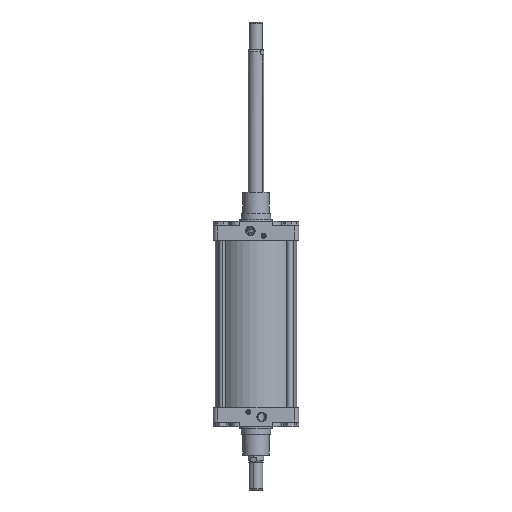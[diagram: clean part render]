
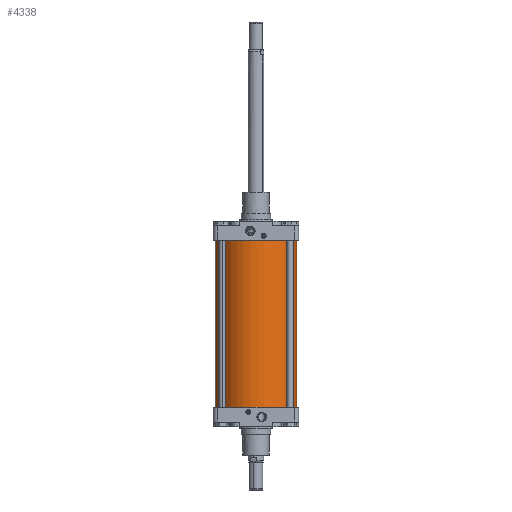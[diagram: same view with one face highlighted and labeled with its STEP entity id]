
A CAD part, front view. The second image highlights one B-rep face of the part: STEP entity #4338.
In plain terms, the highlighted cylindrical face has radius 105 mm (diameter 210 mm), a partial arc.
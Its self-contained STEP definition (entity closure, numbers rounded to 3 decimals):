
#1374 = DIRECTION ( 'NONE',  ( -1., 0., 0. ) ) ;
#1460 = DIRECTION ( 'NONE',  ( 0., 0., -1. ) ) ;
#1548 = CARTESIAN_POINT ( 'NONE',  ( 0., 0., 430. ) ) ;
#2163 = FACE_OUTER_BOUND ( 'NONE', #52716, .T. ) ;
#3009 = CYLINDRICAL_SURFACE ( 'NONE', #68998, 105. ) ;
#4338 = ADVANCED_FACE ( 'NONE', ( #2163 ), #3009, .T. ) ;
#10733 = ORIENTED_EDGE ( 'NONE', *, *, #17106, .T. ) ;
#11371 = VERTEX_POINT ( 'NONE', #69695 ) ;
#12435 = CIRCLE ( 'NONE', #52704, 105. ) ;
#12578 = LINE ( 'NONE', #39831, #12712 ) ;
#12712 = VECTOR ( 'NONE', #39420, 1000. ) ;
#17106 = EDGE_CURVE ( 'NONE', #30858, #68951, #32824, .T. ) ;
#23923 = EDGE_CURVE ( 'NONE', #30858, #28260, #12578, .T. ) ;
#24021 = EDGE_CURVE ( 'NONE', #11371, #28260, #12435, .T. ) ;
#28260 = VERTEX_POINT ( 'NONE', #49550 ) ;
#29296 = ORIENTED_EDGE ( 'NONE', *, *, #23923, .F. ) ;
#30573 = ORIENTED_EDGE ( 'NONE', *, *, #45527, .T. ) ;
#30858 = VERTEX_POINT ( 'NONE', #60663 ) ;
#32824 = CIRCLE ( 'NONE', #58043, 105. ) ;
#35137 = DIRECTION ( 'NONE',  ( -1., 0., 0. ) ) ;
#35188 = DIRECTION ( 'NONE',  ( 0., 0., 1. ) ) ;
#35209 = CARTESIAN_POINT ( 'NONE',  ( 0., 0., 0. ) ) ;
#35941 = CARTESIAN_POINT ( 'NONE',  ( -105., 0., 430. ) ) ;
#39420 = DIRECTION ( 'NONE',  ( 0., 0., -1. ) ) ;
#39831 = CARTESIAN_POINT ( 'NONE',  ( 105., 0., 430. ) ) ;
#45527 = EDGE_CURVE ( 'NONE', #68951, #11371, #67820, .T. ) ;
#49550 = CARTESIAN_POINT ( 'NONE',  ( 105., 0., 0. ) ) ;
#49831 = CARTESIAN_POINT ( 'NONE',  ( -105., 0., 430. ) ) ;
#50330 = ORIENTED_EDGE ( 'NONE', *, *, #24021, .T. ) ;
#52704 = AXIS2_PLACEMENT_3D ( 'NONE', #35209, #35188, #35137 ) ;
#52716 = EDGE_LOOP ( 'NONE', ( #29296, #10733, #30573, #50330 ) ) ;
#58043 = AXIS2_PLACEMENT_3D ( 'NONE', #1548, #1460, #1374 ) ;
#60547 = DIRECTION ( 'NONE',  ( 0., 0., -1. ) ) ;
#60663 = CARTESIAN_POINT ( 'NONE',  ( 105., 0., 430. ) ) ;
#64310 = DIRECTION ( 'NONE',  ( -1., 0., 0. ) ) ;
#64397 = DIRECTION ( 'NONE',  ( 0., 0., -1. ) ) ;
#64990 = CARTESIAN_POINT ( 'NONE',  ( 0., 0., 430. ) ) ;
#67820 = LINE ( 'NONE', #49831, #68073 ) ;
#68073 = VECTOR ( 'NONE', #60547, 1000. ) ;
#68951 = VERTEX_POINT ( 'NONE', #35941 ) ;
#68998 = AXIS2_PLACEMENT_3D ( 'NONE', #64990, #64397, #64310 ) ;
#69695 = CARTESIAN_POINT ( 'NONE',  ( -105., 0., 0. ) ) ;
